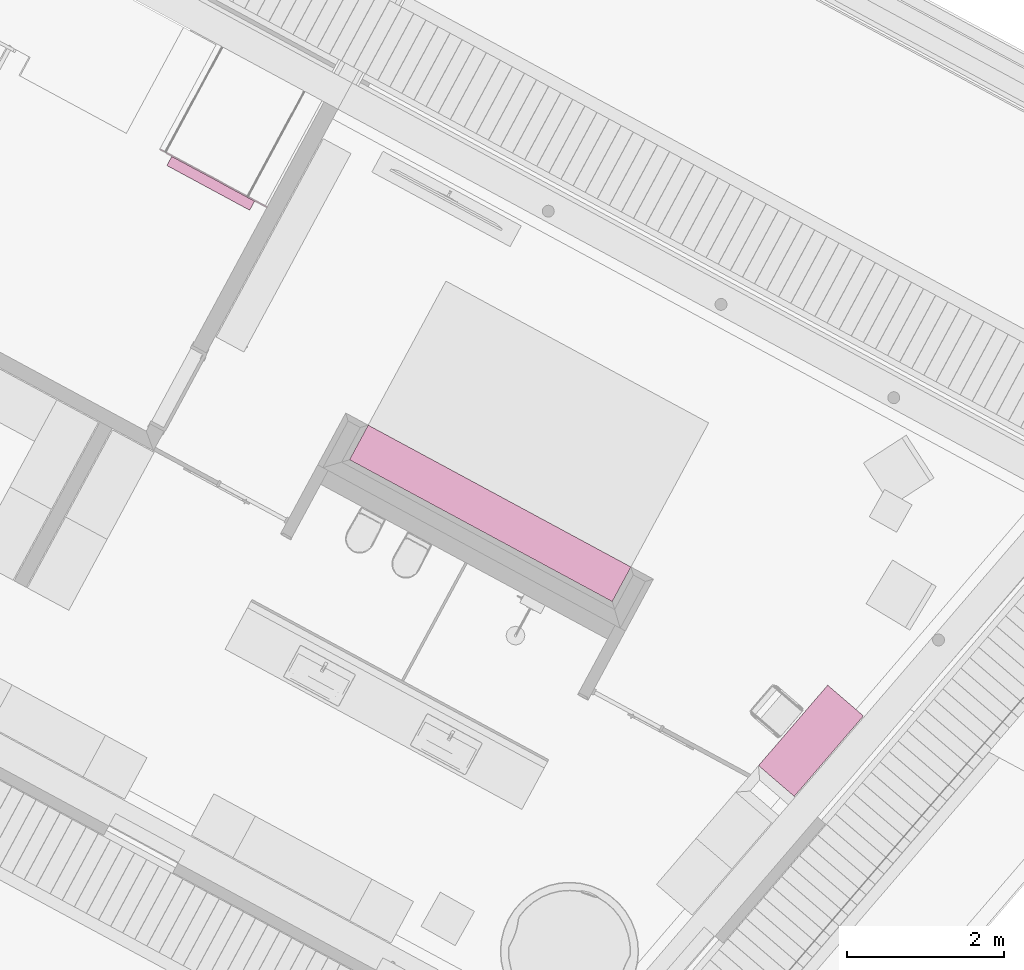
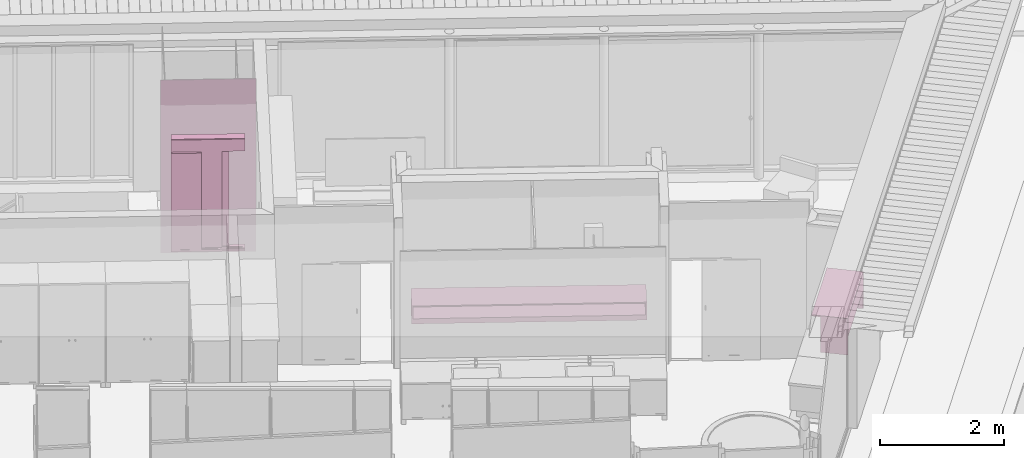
# One storey, part 35 of 41: 2 furnishings, 1 transport element, 1 opening, plus 1 element that does not belong to this part.
"""IFC2X3 building model written with IfcOpenShell, lengths in metres."""

from ifc_helpers import new_model, entity, si_unit, converted_unit, derived_unit, money_unit, direction, frame, origin_with_axes, origin_2d_with_axis, place, context, subcontext, project, spatial, polyline, rectangle, outline, extrude, open_shell, faceted_brep, surface_model, material, type_object, element, fill, save


model = new_model("IFC2X3")

# Units and contexts
model_context = context("Model", 3, precision=1e-05, world=origin_with_axes(), true_north=direction((0.0, 1.0)))
body_context = subcontext(model_context, "Body", "Model", "MODEL_VIEW")
ifc_project = project(units=[si_unit("LENGTHUNIT", "METRE"), si_unit("AREAUNIT", "SQUARE_METRE"), si_unit("VOLUMEUNIT", "CUBIC_METRE"), converted_unit("PLANEANGLEUNIT", "DEGREE", entity("IfcPlaneAngleMeasure", 0.0174532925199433), si_unit("PLANEANGLEUNIT", "RADIAN"), dimensions=[0, 0, 0, 0, 0, 0, 0]), money_unit("EUR"), converted_unit("TIMEUNIT", "Year", entity("IfcTimeMeasure", 31556926.0), si_unit("TIMEUNIT", "SECOND"), dimensions=[0, 0, 1, 0, 0, 0, 0]), si_unit("MASSUNIT", "GRAM", prefix="KILO"), si_unit("THERMODYNAMICTEMPERATUREUNIT", "DEGREE_CELSIUS"), si_unit("LUMINOUSINTENSITYUNIT", "LUMEN"), si_unit("ENERGYUNIT", "JOULE", prefix="MEGA"), derived_unit("THERMALCONDUCTANCEUNIT", [(si_unit("POWERUNIT", "WATT"), 1), (si_unit("LENGTHUNIT", "METRE"), -1), (si_unit("THERMODYNAMICTEMPERATUREUNIT", "KELVIN"), -1)]), derived_unit("SPECIFICHEATCAPACITYUNIT", [(si_unit("ENERGYUNIT", "JOULE"), 1), (si_unit("MASSUNIT", "GRAM", prefix="KILO"), -1), (si_unit("THERMODYNAMICTEMPERATUREUNIT", "KELVIN"), -1)]), derived_unit("MASSDENSITYUNIT", [(si_unit("MASSUNIT", "GRAM", prefix="KILO"), 1), (si_unit("VOLUMEUNIT", "CUBIC_METRE"), -1)])], contexts=[model_context])

# Site, building, storey
site_placement = place(None, frame((-3.949935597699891, 1.740105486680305, 0.0), z_axis=(0.0, 0.0, 1.0), x_axis=(0.8799804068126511, -0.475009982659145, 0.0)))
site = spatial("IfcSite", under=ifc_project, at=site_placement, Name="Gelände", CompositionType="ELEMENT")
building_placement = place(site_placement, origin_with_axes())
building = spatial("IfcBuilding", under=site, at=building_placement, Name="Gebäude", CompositionType="ELEMENT")
storey_placement = place(building_placement, frame((0.0, 0.0, 4.55), z_axis=(0.0, 0.0, 1.0), x_axis=(1.0, 0.0, 0.0)))
storey = spatial("IfcBuildingStorey", under=building, at=storey_placement, Name="Staffelgeschoss", CompositionType="ELEMENT", Elevation=4.55)

# Transport elements, opening
ifc_material = material(Name="Glas, Normalglas")
transport_element_type_1 = type_object("IfcTransportElementType", Name="Glas, Normalglas 10", PredefinedType="ELEVATOR")
transport_element_1_placement = place(storey_placement, frame((15.62880693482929, 9.127799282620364, -0.1500000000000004), z_axis=(0.0, 0.0, 1.0), x_axis=(0.9999999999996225, 8.689518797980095e-07, 0.0)))
transport_element_1 = element("IfcTransportElement", 1, at=transport_element_1_placement, inside=storey, type_object=transport_element_type_1, material=ifc_material, Name="Aufzug5", ObjectType="ELEVATOR", context=body_context, shape_type="SweptSolid", body=[
    extrude(outline(polyline([(0.0, 0.0), (1.538686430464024, 0.0), (1.538686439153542, 0.009999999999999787), (0.0, 0.009999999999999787), (0.0, 0.0)])), origin_with_axes(), (0.0, 0.0, 1.0), 3.405),
])
opening_placement = place(transport_element_1_placement, frame((0.6342390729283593, 0.0, 0.1500000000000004), z_axis=(0.0, 0.0, 1.0), x_axis=(1.0, 0.0, 0.0)))
opening = element("IfcOpeningElement", 2, at=opening_placement, cuts=transport_element_1, Name="Tür-011", context=body_context, shape_type="SweptSolid", body=[
    extrude(rectangle(XDim=0.9000000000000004, YDim=2.05, at=origin_2d_with_axis()), frame((8.689756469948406e-09, 0.009999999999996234, 1.024999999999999), z_axis=(8.689518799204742e-07, 0.9999999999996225, 0.0), x_axis=(0.9999999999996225, -8.689518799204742e-07, 0.0)), (0.0, 0.0, -1.0), 0.03),
])
transport_element_type_2 = type_object("IfcTransportElementType", Name="Teleskoptür 22", PredefinedType="ELEVATOR")
transport_element_2_placement = place(opening_placement, frame((0.4499999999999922, 0.0, 0.0), z_axis=(0.0, 0.0, 1.0), x_axis=(-1.0, 0.0, 0.0)))
transport_element_2 = element("IfcTransportElement", 3, at=transport_element_2_placement, inside=storey, type_object=transport_element_type_2, Name="Tür-011", ObjectType="ELEVATOR", context=body_context, shape_type="SurfaceModel", body=[
    faceted_brep([(-0.2774999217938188, 0.09000118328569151, 1.899999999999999), (-0.2774999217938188, 0.09000118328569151, 1.938), (0.9200000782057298, 0.09000014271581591, 1.938), (0.9200000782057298, 0.09000014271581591, 1.899999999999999), (-0.2774999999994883, 1.183285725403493e-06, 1.899999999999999), (-0.2774999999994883, 1.183285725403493e-06, 2.18), (-0.2774998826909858, 0.1350011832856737, 2.18), (-0.2774998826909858, 0.1350011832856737, 2.177), (-0.2774999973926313, 0.003001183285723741, 2.177), (-0.2774999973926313, 0.003001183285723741, 1.903), (-0.2774999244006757, 0.0870011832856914, 1.903), (-0.2774999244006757, 0.0870011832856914, 1.938), (0.9200000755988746, 0.0870001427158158, 1.938), (0.9200000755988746, 0.0870001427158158, 1.903), (0.9200000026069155, 0.003000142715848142, 1.903), (0.9200000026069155, 0.003000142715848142, 2.177), (0.9200001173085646, 0.1350001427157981, 2.177), (0.9200001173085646, 0.1350001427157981, 2.18), (0.9200000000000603, 1.42715849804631e-07, 2.18), (0.9200000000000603, 1.42715849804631e-07, 1.899999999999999)], [[[0, 1, 2, 3]], [[0, 4, 5, 6, 7, 8, 9, 10, 11, 1]], [[1, 11, 12, 2]], [[3, 2, 12, 13, 14, 15, 16, 17, 18, 19]], [[4, 0, 3, 19]], [[5, 4, 19, 18]], [[6, 5, 18, 17]], [[7, 6, 17, 16]], [[8, 7, 16, 15]], [[9, 8, 15, 14]], [[10, 9, 14, 13]], [[11, 10, 13, 12]]]),
    faceted_brep([(-0.2774999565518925, 0.05000118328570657, 1.903), (-0.2774999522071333, 0.0550011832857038, 1.903), (0.9200000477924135, 0.0550001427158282, 1.903), (0.9200000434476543, 0.0500001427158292, 1.903), (-0.2774999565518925, 0.05000118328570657, 2.14), (-0.2774999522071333, 0.0550011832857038, 2.14), (0.9200000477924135, 0.0550001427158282, 2.14), (0.9200000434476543, 0.0500001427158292, 2.14)], [[[0, 1, 2, 3]], [[0, 4, 5, 1]], [[1, 5, 6, 2]], [[3, 2, 6, 7]], [[4, 0, 3, 7]], [[5, 4, 7, 6]]]),
    faceted_brep([(-0.2774999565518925, 0.05000118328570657, 2.13), (-0.2774999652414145, 0.04000118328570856, 2.13), (0.9200000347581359, 0.04000014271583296, 2.13), (0.9200000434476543, 0.0500001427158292, 2.13), (-0.2774999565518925, 0.05000118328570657, 2.069999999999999), (-0.2774999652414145, 0.04000118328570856, 2.069999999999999), (0.9200000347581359, 0.04000014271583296, 2.069999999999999), (0.9200000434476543, 0.0500001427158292, 2.069999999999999)], [[[0, 1, 2, 3]], [[0, 4, 5, 1]], [[1, 5, 6, 2]], [[3, 2, 6, 7]], [[4, 0, 3, 7]], [[5, 4, 7, 6]]]),
    faceted_brep([(-0.2774999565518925, 0.05000118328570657, 2.0), (-0.2774999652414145, 0.04000118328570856, 2.0), (0.9200000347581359, 0.04000014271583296, 2.0), (0.9200000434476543, 0.0500001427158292, 2.0), (-0.2774999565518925, 0.05000118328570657, 1.96), (-0.2774999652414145, 0.04000118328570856, 1.96), (0.9200000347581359, 0.04000014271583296, 1.96), (0.9200000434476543, 0.0500001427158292, 1.96)], [[[0, 1, 2, 3]], [[0, 4, 5, 1]], [[1, 5, 6, 2]], [[3, 2, 6, 7]], [[4, 0, 3, 7]], [[5, 4, 7, 6]]]),
    faceted_brep([(-0.2774999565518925, 0.05000118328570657, 2.069999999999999), (-0.277499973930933, 0.03000118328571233, 2.069999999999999), (0.9200000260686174, 0.03000014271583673, 2.069999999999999), (0.9200000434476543, 0.0500001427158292, 2.069999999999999), (-0.2774999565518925, 0.05000118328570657, 2.0), (-0.277499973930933, 0.03000118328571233, 2.0), (0.9200000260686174, 0.03000014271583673, 2.0), (0.9200000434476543, 0.0500001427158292, 2.0)], [[[0, 1, 2, 3]], [[0, 4, 5, 1]], [[1, 5, 6, 2]], [[3, 2, 6, 7]], [[4, 0, 3, 7]], [[5, 4, 7, 6]]]),
    faceted_brep([(-0.2774999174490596, 0.09500118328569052, 1.903), (-0.2774999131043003, 0.1000011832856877, 1.903), (0.9200000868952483, 0.1000001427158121, 1.903), (0.920000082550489, 0.09500014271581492, 1.903), (-0.2774999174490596, 0.09500118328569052, 2.14), (-0.2774999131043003, 0.1000011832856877, 2.14), (0.9200000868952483, 0.1000001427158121, 2.14), (0.920000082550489, 0.09500014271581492, 2.14)], [[[0, 1, 2, 3]], [[0, 4, 5, 1]], [[1, 5, 6, 2]], [[3, 2, 6, 7]], [[4, 0, 3, 7]], [[5, 4, 7, 6]]]),
    faceted_brep([(-0.2774999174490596, 0.09500118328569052, 2.13), (-0.277499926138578, 0.0850011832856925, 2.13), (0.9200000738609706, 0.0850001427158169, 2.13), (0.920000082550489, 0.09500014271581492, 2.13), (-0.2774999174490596, 0.09500118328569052, 2.069999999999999), (-0.277499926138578, 0.0850011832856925, 2.069999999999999), (0.9200000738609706, 0.0850001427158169, 2.069999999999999), (0.920000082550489, 0.09500014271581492, 2.069999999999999)], [[[0, 1, 2, 3]], [[0, 4, 5, 1]], [[1, 5, 6, 2]], [[3, 2, 6, 7]], [[4, 0, 3, 7]], [[5, 4, 7, 6]]]),
    faceted_brep([(-0.2774999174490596, 0.09500118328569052, 2.0), (-0.277499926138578, 0.0850011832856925, 2.0), (0.9200000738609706, 0.0850001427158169, 2.0), (0.920000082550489, 0.09500014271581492, 2.0), (-0.2774999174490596, 0.09500118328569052, 1.96), (-0.277499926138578, 0.0850011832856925, 1.96), (0.9200000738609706, 0.0850001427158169, 1.96), (0.920000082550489, 0.09500014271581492, 1.96)], [[[0, 1, 2, 3]], [[0, 4, 5, 1]], [[1, 5, 6, 2]], [[3, 2, 6, 7]], [[4, 0, 3, 7]], [[5, 4, 7, 6]]]),
    faceted_brep([(-0.2774999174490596, 0.09500118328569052, 2.069999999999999), (-0.2774999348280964, 0.07500118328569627, 2.069999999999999), (0.9200000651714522, 0.07500014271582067, 2.069999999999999), (0.920000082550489, 0.09500014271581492, 2.069999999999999), (-0.2774999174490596, 0.09500118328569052, 2.0), (-0.2774999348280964, 0.07500118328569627, 2.0), (0.9200000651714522, 0.07500014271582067, 2.0), (0.920000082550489, 0.09500014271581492, 2.0)], [[[0, 1, 2, 3]], [[0, 4, 5, 1]], [[1, 5, 6, 2]], [[3, 2, 6, 7]], [[4, 0, 3, 7]], [[5, 4, 7, 6]]]),
    faceted_brep([(-0.2774999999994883, 1.183285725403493e-06, 0.0), (-0.2774999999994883, 1.183285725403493e-06, -0.04000000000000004), (0.9200000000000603, 1.42715849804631e-07, -0.04000000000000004), (0.9200000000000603, 1.42715849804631e-07, 0.0), (-0.2774999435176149, 0.06500118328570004, 0.0), (-0.2774999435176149, 0.06500118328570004, -0.009999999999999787), (-0.2774999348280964, 0.07500118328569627, -0.009999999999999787), (-0.2774999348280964, 0.07500118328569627, 0.0), (-0.2774999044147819, 0.1100011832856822, 0.0), (-0.2774999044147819, 0.1100011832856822, -0.009999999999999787), (-0.2774998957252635, 0.1200011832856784, -0.009999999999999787), (-0.2774998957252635, 0.1200011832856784, 0.0), (-0.2774998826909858, 0.1350011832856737, 0.0), (-0.2774998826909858, 0.1350011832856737, -0.04000000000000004), (0.9200001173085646, 0.1350001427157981, -0.04000000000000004), (0.9200001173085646, 0.1350001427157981, 0.0), (0.9200001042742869, 0.1200001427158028, 0.0), (0.9200001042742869, 0.1200001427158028, -0.009999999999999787), (0.9200000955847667, 0.1100001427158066, -0.009999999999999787), (0.9200000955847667, 0.1100001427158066, 0.0), (0.9200000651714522, 0.07500014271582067, 0.0), (0.9200000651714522, 0.07500014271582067, -0.009999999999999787), (0.920000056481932, 0.06500014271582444, -0.009999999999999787), (0.920000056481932, 0.06500014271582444, 0.0)], [[[0, 1, 2, 3]], [[0, 4, 5, 6, 7, 8, 9, 10, 11, 12, 13, 1]], [[1, 13, 14, 2]], [[3, 2, 14, 15, 16, 17, 18, 19, 20, 21, 22, 23]], [[4, 0, 3, 23]], [[5, 4, 23, 22]], [[6, 5, 22, 21]], [[7, 6, 21, 20]], [[8, 7, 20, 19]], [[9, 8, 19, 18]], [[10, 9, 18, 17]], [[11, 10, 17, 16]], [[12, 11, 16, 15]], [[13, 12, 15, 14]]]),
    faceted_brep([(0.1150000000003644, 8.422221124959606e-07, 0.0), (0.1150000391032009, 0.04500084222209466, 0.0), (0.1150000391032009, 0.04500084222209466, 1.899999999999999), (0.1150000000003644, 8.422221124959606e-07, 1.899999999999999), (-0.01999999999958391, 9.59530616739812e-07, 0.0), (-0.01999996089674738, 0.04500095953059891, 0.0), (-0.01999996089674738, 0.04500095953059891, 1.899999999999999), (-0.01999999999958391, 9.59530616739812e-07, 1.899999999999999)], [[[0, 1, 2, 3]], [[0, 4, 5, 1]], [[1, 5, 6, 2]], [[3, 2, 6, 7]], [[4, 0, 3, 7]], [[5, 4, 7, 6]]]),
    faceted_brep([(0.9200000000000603, 1.42715849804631e-07, 0.0), (0.9200001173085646, 0.1350001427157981, 0.0), (0.9200001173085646, 0.1350001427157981, 1.899999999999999), (0.9200000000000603, 1.42715849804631e-07, 1.899999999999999), (0.785000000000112, 2.600243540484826e-07, 0.0), (0.7850001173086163, 0.1350002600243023, 0.0), (0.7850001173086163, 0.1350002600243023, 1.899999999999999), (0.785000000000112, 2.600243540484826e-07, 1.899999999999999)], [[[0, 1, 2, 3]], [[0, 4, 5, 1]], [[1, 5, 6, 2]], [[3, 2, 6, 7]], [[4, 0, 3, 7]], [[5, 4, 7, 6]]]),
    faceted_brep([(-0.1800000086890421, -0.009998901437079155, 0.7999999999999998), (-0.1000000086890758, -0.009998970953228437, 0.7999999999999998), (-0.1000000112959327, -0.01299897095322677, 0.7999999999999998), (-0.180000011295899, -0.01299890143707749, 0.7999999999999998), (-0.1800000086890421, -0.009998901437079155, 1.06), (-0.1000000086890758, -0.009998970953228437, 1.06), (-0.1700000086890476, -0.009998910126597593, 1.03), (-0.1700000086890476, -0.009998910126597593, 0.9400000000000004), (-0.1100000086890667, -0.009998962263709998, 0.9400000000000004), (-0.1100000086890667, -0.009998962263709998, 1.03), (-0.1500000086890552, -0.00999892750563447, 0.8399999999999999), (-0.1300000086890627, -0.009998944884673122, 0.8399999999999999), (-0.1300000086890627, -0.009998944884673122, 0.8600000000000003), (-0.1500000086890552, -0.00999892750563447, 0.8600000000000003), (-0.1500000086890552, -0.00999892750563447, 0.8799999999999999), (-0.1300000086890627, -0.009998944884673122, 0.8799999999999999), (-0.1300000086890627, -0.009998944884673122, 0.9000000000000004), (-0.1500000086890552, -0.00999892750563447, 0.9000000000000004), (-0.1000000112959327, -0.01299897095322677, 1.06), (-0.180000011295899, -0.01299890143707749, 1.06), (-0.1700000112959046, -0.01299891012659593, 1.03), (-0.1100000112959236, -0.01299896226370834, 1.03), (-0.1100000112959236, -0.01299896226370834, 0.9400000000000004), (-0.1700000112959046, -0.01299891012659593, 0.9400000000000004), (-0.1500000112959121, -0.01299892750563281, 0.8399999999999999), (-0.1500000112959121, -0.01299892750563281, 0.8600000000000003), (-0.1300000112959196, -0.01299894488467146, 0.8600000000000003), (-0.1300000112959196, -0.01299894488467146, 0.8399999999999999), (-0.1500000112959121, -0.01299892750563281, 0.8799999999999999), (-0.1500000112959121, -0.01299892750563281, 0.9000000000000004), (-0.1300000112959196, -0.01299894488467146, 0.9000000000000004), (-0.1300000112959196, -0.01299894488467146, 0.8799999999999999)], [[[0, 1, 2, 3]], [[0, 4, 5, 1], [6, 7, 8, 9], [10, 11, 12, 13], [14, 15, 16, 17]], [[1, 5, 18, 2]], [[3, 2, 18, 19], [20, 21, 22, 23], [24, 25, 26, 27], [28, 29, 30, 31]], [[4, 0, 3, 19]], [[5, 4, 19, 18]], [[7, 6, 20, 23]], [[8, 7, 23, 22]], [[9, 8, 22, 21]], [[6, 9, 21, 20]], [[11, 10, 24, 27]], [[12, 11, 27, 26]], [[13, 12, 26, 25]], [[10, 13, 25, 24]], [[15, 14, 28, 31]], [[16, 15, 31, 30]], [[17, 16, 30, 29]], [[14, 17, 29, 28]]]),
    faceted_brep([(-0.1700000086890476, -0.009998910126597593, 0.9400000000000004), (-0.1100000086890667, -0.009998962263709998, 0.9400000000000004), (-0.1100000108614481, -0.0124989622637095, 0.9400000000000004), (-0.170000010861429, -0.0124989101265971, 0.9400000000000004), (-0.1700000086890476, -0.009998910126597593, 1.03), (-0.1100000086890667, -0.009998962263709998, 1.03), (-0.1100000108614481, -0.0124989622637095, 1.03), (-0.170000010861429, -0.0124989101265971, 1.03)], [[[0, 1, 2, 3]], [[0, 4, 5, 1]], [[1, 5, 6, 2]], [[3, 2, 6, 7]], [[4, 0, 3, 7]], [[5, 4, 7, 6]]]),
    surface_model("IfcShellBasedSurfaceModel", [(-0.1560000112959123, -0.01299892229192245, 1.005), (-0.1500000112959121, -0.01299892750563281, 1.021), (-0.1440000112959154, -0.01299893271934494, 1.005)], [open_shell([[[0, 1, 2]]])]),
    surface_model("IfcShellBasedSurfaceModel", [(-0.1300000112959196, -0.01299894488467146, 1.005), (-0.1360000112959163, -0.01299893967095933, 1.021), (-0.124000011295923, -0.01299895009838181, 1.021)], [open_shell([[[0, 1, 2]]])]),
    surface_model("IfcShellBasedSurfaceModel", [(-0.1427272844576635, -0.013498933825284, 0.9820000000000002), (-0.1427272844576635, -0.013498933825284, 0.9716363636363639), (-0.1440909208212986, -0.01349893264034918, 0.9702727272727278), (-0.1454545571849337, -0.01349893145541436, 0.9716363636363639), (-0.1454545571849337, -0.01349893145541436, 0.9820000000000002), (-0.1440909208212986, -0.01349893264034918, 0.9833636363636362)], [open_shell([[[0, 1, 2, 3, 4, 5]]])]),
    surface_model("IfcShellBasedSurfaceModel", [(-0.1427272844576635, -0.013498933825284, 0.9683636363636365), (-0.1427272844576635, -0.013498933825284, 0.9580000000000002), (-0.1440909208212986, -0.01349893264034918, 0.9566363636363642), (-0.1454545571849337, -0.01349893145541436, 0.9580000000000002), (-0.1454545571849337, -0.01349893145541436, 0.9683636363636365), (-0.1440909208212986, -0.01349893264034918, 0.9697272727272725)], [open_shell([[[0, 1, 2, 3, 4, 5]]])]),
    surface_model("IfcShellBasedSurfaceModel", [(-0.1239091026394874, -0.01349895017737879, 0.9822727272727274), (-0.1342727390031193, -0.01349894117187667, 0.9822727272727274), (-0.135636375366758, -0.01349893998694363, 0.9836363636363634), (-0.1342727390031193, -0.01349894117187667, 0.9850000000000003), (-0.1239091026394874, -0.01349895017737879, 0.9850000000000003), (-0.1225454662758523, -0.0134989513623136, 0.9836363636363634)], [open_shell([[[0, 1, 2, 3, 4, 5]]])]),
    surface_model("IfcShellBasedSurfaceModel", [(-0.1209091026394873, -0.01349895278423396, 0.9820000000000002), (-0.1209091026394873, -0.01349895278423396, 0.9716363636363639), (-0.122272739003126, -0.01349895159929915, 0.9702727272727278), (-0.1236363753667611, -0.01349895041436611, 0.9716363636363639), (-0.1236363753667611, -0.01349895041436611, 0.9820000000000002), (-0.122272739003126, -0.01349895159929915, 0.9833636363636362)], [open_shell([[[0, 1, 2, 3, 4, 5]]])]),
    surface_model("IfcShellBasedSurfaceModel", [(-0.1239091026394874, -0.01349895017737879, 0.9686363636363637), (-0.1342727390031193, -0.01349894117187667, 0.9686363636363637), (-0.135636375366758, -0.01349893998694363, 0.9699999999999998), (-0.1342727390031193, -0.01349894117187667, 0.9713636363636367), (-0.1239091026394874, -0.01349895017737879, 0.9713636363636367), (-0.1225454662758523, -0.0134989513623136, 0.9699999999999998)], [open_shell([[[0, 1, 2, 3, 4, 5]]])]),
    surface_model("IfcShellBasedSurfaceModel", [(-0.1345454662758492, -0.01349894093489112, 0.9683636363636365), (-0.1345454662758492, -0.01349894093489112, 0.9580000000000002), (-0.1359091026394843, -0.01349893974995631, 0.9566363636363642), (-0.1372727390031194, -0.01349893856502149, 0.9580000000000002), (-0.1372727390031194, -0.01349893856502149, 0.9683636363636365), (-0.1359091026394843, -0.01349893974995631, 0.9697272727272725)], [open_shell([[[0, 1, 2, 3, 4, 5]]])]),
    surface_model("IfcShellBasedSurfaceModel", [(-0.1239091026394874, -0.01349895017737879, 0.9550000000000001), (-0.1342727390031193, -0.01349894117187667, 0.9550000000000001), (-0.135636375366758, -0.01349893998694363, 0.9563636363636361), (-0.1342727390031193, -0.01349894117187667, 0.957727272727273), (-0.1239091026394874, -0.01349895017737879, 0.957727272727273), (-0.1225454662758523, -0.0134989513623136, 0.9563636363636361)], [open_shell([[[0, 1, 2, 3, 4, 5]]])]),
    faceted_brep([(-0.1300000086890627, -0.009998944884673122, 0.8399999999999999), (-0.1500000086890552, -0.00999892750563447, 0.8399999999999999), (-0.1500000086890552, -0.00999892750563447, 0.8600000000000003), (-0.1300000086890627, -0.009998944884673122, 0.8600000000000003), (-0.1300000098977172, -0.01149894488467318, 0.8399999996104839), (-0.1500000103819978, -0.01149892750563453, 0.8399999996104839), (-0.1500000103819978, -0.01149892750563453, 0.8600000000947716), (-0.1300000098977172, -0.01149894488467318, 0.8600000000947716), (-0.131400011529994, -0.01289894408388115, 0.8414000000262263), (-0.1486000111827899, -0.0128989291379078, 0.8414000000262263), (-0.1486000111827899, -0.0128989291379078, 0.8585999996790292), (-0.131400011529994, -0.01289894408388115, 0.8585999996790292)], [[[0, 1, 2, 3]], [[1, 0, 4, 5]], [[2, 1, 5, 6]], [[3, 2, 6, 7]], [[0, 3, 7, 4]], [[5, 4, 8, 9]], [[6, 5, 9, 10]], [[7, 6, 10, 11]], [[4, 7, 11, 8]], [[10, 9, 8, 11]]]),
    surface_model("IfcShellBasedSurfaceModel", [(-0.1350000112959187, -0.01299894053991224, 0.8550000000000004), (-0.1400000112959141, -0.01299893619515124, 0.8440000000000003), (-0.1450000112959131, -0.01299893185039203, 0.8550000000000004)], [open_shell([[[0, 1, 2]]])]),
    faceted_brep([(-0.1300000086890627, -0.009998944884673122, 0.8799999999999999), (-0.1500000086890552, -0.00999892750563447, 0.8799999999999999), (-0.1500000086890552, -0.00999892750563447, 0.9000000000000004), (-0.1300000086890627, -0.009998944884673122, 0.9000000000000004), (-0.1300000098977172, -0.01149894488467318, 0.8799999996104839), (-0.1500000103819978, -0.01149892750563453, 0.8799999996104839), (-0.1500000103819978, -0.01149892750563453, 0.9000000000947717), (-0.1300000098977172, -0.01149894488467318, 0.9000000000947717), (-0.131400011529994, -0.01289894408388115, 0.8814000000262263), (-0.1486000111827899, -0.0128989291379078, 0.8814000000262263), (-0.1486000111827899, -0.0128989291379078, 0.8985999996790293), (-0.131400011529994, -0.01289894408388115, 0.8985999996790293)], [[[0, 1, 2, 3]], [[1, 0, 4, 5]], [[2, 1, 5, 6]], [[3, 2, 6, 7]], [[0, 3, 7, 4]], [[5, 4, 8, 9]], [[6, 5, 9, 10]], [[7, 6, 10, 11]], [[4, 7, 11, 8]], [[10, 9, 8, 11]]]),
    surface_model("IfcShellBasedSurfaceModel", [(-0.1350000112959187, -0.01299894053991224, 0.8849999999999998), (-0.1450000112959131, -0.01299893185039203, 0.8849999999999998), (-0.1400000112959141, -0.01299893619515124, 0.8959999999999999)], [open_shell([[[0, 1, 2]]])]),
    faceted_brep([(0.4275000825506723, 0.09500057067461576, 0.003000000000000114), (0.427500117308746, 0.1350005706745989, 0.003000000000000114), (0.7800001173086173, 0.1350002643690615, 0.003000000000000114), (0.7800000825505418, 0.09500026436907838, 0.003000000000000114), (0.4275000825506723, 0.09500057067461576, 1.899999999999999), (0.427500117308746, 0.1350005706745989, 1.899999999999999), (0.7800001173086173, 0.1350002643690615, 1.899999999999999), (0.7800000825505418, 0.09500026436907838, 1.899999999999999)], [[[0, 1, 2, 3]], [[4, 5, 1, 0]], [[1, 5, 6, 2]], [[3, 2, 6, 7]], [[0, 3, 7, 4]], [[7, 6, 5, 4]]]),
    faceted_brep([(0.09500004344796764, 0.05000085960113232, 0.003000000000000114), (0.0950000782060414, 0.09000085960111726, 0.003000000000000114), (0.4475000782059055, 0.09000055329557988, 0.003000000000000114), (0.4475000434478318, 0.05000055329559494, 0.003000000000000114), (0.09500004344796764, 0.05000085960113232, 1.899999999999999), (0.0950000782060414, 0.09000085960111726, 1.899999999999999), (0.4475000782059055, 0.09000055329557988, 1.899999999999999), (0.4475000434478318, 0.05000055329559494, 1.899999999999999)], [[[0, 1, 2, 3]], [[4, 5, 1, 0]], [[1, 5, 6, 2]], [[3, 2, 6, 7]], [[0, 3, 7, 4]], [[7, 6, 5, 4]]]),
])
fill(opening, transport_element_2)

# Furnishings
furniture_type_1 = type_object("IfcFurnitureType", Name="Regal 1 22", AssemblyPlace="NOTDEFINED")
furnishing_1_placement = place(storey_placement, frame((23.41753332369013, 7.302148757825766, 0.0), z_axis=(0.0, 0.0, 1.0), x_axis=(1.0, 0.0, 0.0)))
element("IfcFurnishingElement", 4, at=furnishing_1_placement, inside=storey, type_object=furniture_type_1, Name="Objekt-0067", ObjectType="FURNITURE", context=body_context, shape_type="Brep", body=[
    faceted_brep([(-3.780000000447, -0.00999999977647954, 0.0), (-0.019999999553, -0.009999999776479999, 0.0), (-0.01999999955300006, -0.4999999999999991, 0.0), (-3.780000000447, -0.4999999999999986, 0.0), (-3.780000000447, -0.00999999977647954, 0.10000000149), (-0.019999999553, -0.009999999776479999, 0.10000000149), (-0.01999999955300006, -0.4999999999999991, 0.10000000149), (-3.780000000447, -0.4999999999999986, 0.10000000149)], [[[0, 1, 2, 3]], [[1, 0, 4, 5]], [[2, 1, 5, 6]], [[3, 2, 6, 7]], [[0, 3, 7, 4]], [[5, 4, 7, 6]]]),
    faceted_brep([(-0.019999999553, 0.0, 0.0), (0.0, 0.0, 0.0), (0.0, -0.4999999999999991, 0.0), (-0.01999999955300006, -0.4999999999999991, 0.0), (-0.019999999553, 0.0, 0.3527297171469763), (0.0, 0.0, 0.3527297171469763), (0.0, -0.4999999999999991, 0.3527297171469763), (-0.01999999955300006, -0.4999999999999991, 0.3527297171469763)], [[[0, 1, 2, 3]], [[1, 0, 4, 5]], [[2, 1, 5, 6]], [[3, 2, 6, 7]], [[0, 3, 7, 4]], [[5, 4, 7, 6]]]),
    faceted_brep([(-3.800000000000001, 0.0, 0.0), (-3.780000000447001, 0.0, 0.0), (-3.780000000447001, -0.4999999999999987, 0.0), (-3.800000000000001, -0.4999999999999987, 0.0), (-3.800000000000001, 0.0, 0.3527297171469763), (-3.780000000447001, 0.0, 0.3527297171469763), (-3.780000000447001, -0.4999999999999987, 0.3527297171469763), (-3.800000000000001, -0.4999999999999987, 0.3527297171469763)], [[[0, 1, 2, 3]], [[1, 0, 4, 5]], [[2, 1, 5, 6]], [[3, 2, 6, 7]], [[0, 3, 7, 4]], [[5, 4, 7, 6]]]),
    faceted_brep([(-3.780000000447, 0.0, 0.0), (-0.019999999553, 0.0, 0.0), (-0.019999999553, -0.009999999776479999, 0.0), (-3.780000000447, -0.00999999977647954, 0.0), (-3.780000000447, 0.0, 0.3327297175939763), (-0.019999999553, 0.0, 0.3327297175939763), (-0.019999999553, -0.009999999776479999, 0.3327297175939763), (-3.780000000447, -0.00999999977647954, 0.3327297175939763)], [[[0, 1, 2, 3]], [[1, 0, 4, 5]], [[2, 1, 5, 6]], [[3, 2, 6, 7]], [[0, 3, 7, 4]], [[5, 4, 7, 6]]]),
    faceted_brep([(-3.780000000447, 0.0, 0.3327297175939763), (-0.019999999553, 0.0, 0.3327297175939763), (-0.01999999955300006, -0.4999999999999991, 0.3327297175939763), (-3.780000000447, -0.4999999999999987, 0.3327297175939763), (-3.780000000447, 0.0, 0.3527297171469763), (-0.019999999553, 0.0, 0.3527297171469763), (-0.01999999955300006, -0.4999999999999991, 0.3527297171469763), (-3.780000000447, -0.4999999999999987, 0.3527297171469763)], [[[0, 1, 2, 3]], [[1, 0, 4, 5]], [[2, 1, 5, 6]], [[3, 2, 6, 7]], [[0, 3, 7, 4]], [[5, 4, 7, 6]]]),
])
furniture_type_2 = type_object("IfcFurnitureType", Name="Schreibtisch 22", AssemblyPlace="NOTDEFINED")
furnishing_2_placement = place(storey_placement, frame((26.04810255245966, 5.848751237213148, 0.0), z_axis=(0.0, 0.0, 1.0), x_axis=(-0.2133784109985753, -0.9769696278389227, 0.0)))
element("IfcFurnishingElement", 5, at=furnishing_2_placement, inside=storey, type_object=furniture_type_2, Name="Objekt-0068", ObjectType="FURNITURE", context=body_context, shape_type="Brep", body=[
    faceted_brep([(-0.02, 0.1500000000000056, 0.0), (-0.02, 0.6000000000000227, 0.0), (0.0, 0.6000000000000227, 0.0), (0.0, 0.1500000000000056, 0.0), (-0.02, 0.1500000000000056, 0.695), (-0.02, 0.6000000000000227, 0.695), (0.0, 0.6000000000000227, 0.695), (0.0, 0.1500000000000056, 0.695)], [[[0, 1, 2, 3]], [[0, 4, 5, 1]], [[1, 5, 6, 2]], [[2, 6, 7, 3]], [[3, 7, 4, 0]], [[7, 6, 5, 4]]]),
    faceted_brep([(-1.350000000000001, 0.1500000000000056, 0.0), (-1.350000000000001, 0.6000000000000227, 0.0), (-1.330000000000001, 0.6000000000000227, 0.0), (-1.330000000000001, 0.1500000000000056, 0.0), (-1.350000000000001, 0.1500000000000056, 0.695), (-1.350000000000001, 0.6000000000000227, 0.695), (-1.330000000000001, 0.6000000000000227, 0.695), (-1.330000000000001, 0.1500000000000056, 0.695)], [[[0, 1, 2, 3]], [[0, 4, 5, 1]], [[1, 5, 6, 2]], [[2, 6, 7, 3]], [[3, 7, 4, 0]], [[7, 6, 5, 4]]]),
    faceted_brep([(-1.350000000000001, 0.0, 0.695), (-1.350000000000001, 0.6000000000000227, 0.695), (0.0, 0.6000000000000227, 0.695), (0.0, 0.0, 0.695), (-1.350000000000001, 0.0, 0.72), (-1.350000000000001, 0.6000000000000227, 0.72), (0.0, 0.6000000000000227, 0.72), (0.0, 0.0, 0.72)], [[[0, 1, 2, 3]], [[0, 4, 5, 1]], [[1, 5, 6, 2]], [[2, 6, 7, 3]], [[3, 7, 4, 0]], [[7, 6, 5, 4]]]),
    faceted_brep([(-1.330000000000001, 0.5800000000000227, 0.36), (-1.330000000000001, 0.6000000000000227, 0.36), (-0.02000000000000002, 0.6000000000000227, 0.36), (-0.02000000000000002, 0.5800000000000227, 0.36), (-1.330000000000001, 0.5800000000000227, 0.6950000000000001), (-1.330000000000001, 0.6000000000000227, 0.6950000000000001), (-0.02000000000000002, 0.6000000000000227, 0.6950000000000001), (-0.02000000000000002, 0.5800000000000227, 0.6950000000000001)], [[[0, 1, 2, 3]], [[0, 4, 5, 1]], [[1, 5, 6, 2]], [[2, 6, 7, 3]], [[3, 7, 4, 0]], [[7, 6, 5, 4]]]),
])

save(model, "model.ifc")
